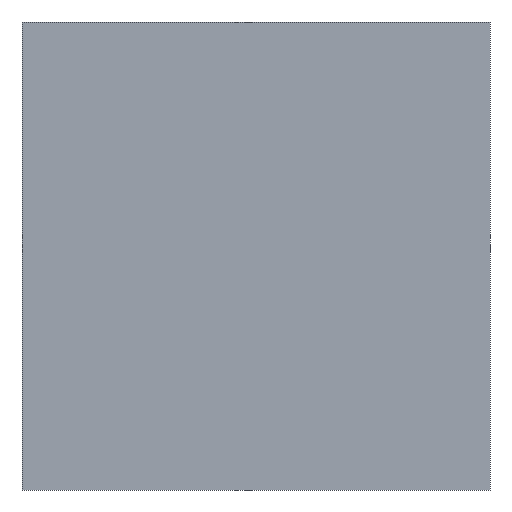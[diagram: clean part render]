
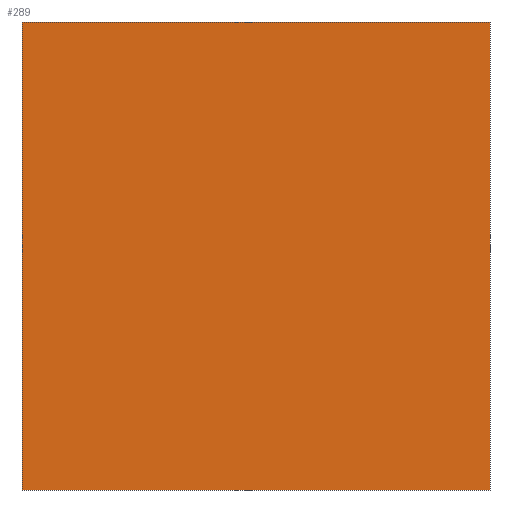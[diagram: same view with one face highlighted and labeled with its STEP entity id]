
A CAD part, front view. The second image highlights one B-rep face of the part: STEP entity #289.
In plain terms, the highlighted planar face has unit normal (0, -1, 0).
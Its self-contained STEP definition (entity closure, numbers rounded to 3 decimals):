
#25 = CARTESIAN_POINT ( 'NONE',  ( 0., -32.5, -20. ) ) ;
#43 = VERTEX_POINT ( 'NONE', #296 ) ;
#133 = LINE ( 'NONE', #710, #361 ) ;
#162 = CARTESIAN_POINT ( 'NONE',  ( 40., -32.5, -20. ) ) ;
#172 = EDGE_LOOP ( 'NONE', ( #198, #449, #435, #474 ) ) ;
#180 = FACE_OUTER_BOUND ( 'NONE', #172, .T. ) ;
#198 = ORIENTED_EDGE ( 'NONE', *, *, #367, .T. ) ;
#266 = DIRECTION ( 'NONE',  ( 0., 0., -1. ) ) ;
#289 = ADVANCED_FACE ( 'NONE', ( #180 ), #631, .F. ) ;
#296 = CARTESIAN_POINT ( 'NONE',  ( 40., -32.5, 20. ) ) ;
#339 = LINE ( 'NONE', #416, #403 ) ;
#346 = EDGE_CURVE ( 'NONE', #778, #893, #765, .T. ) ;
#361 = VECTOR ( 'NONE', #716, 1000. ) ;
#367 = EDGE_CURVE ( 'NONE', #418, #893, #339, .T. ) ;
#373 = EDGE_CURVE ( 'NONE', #43, #778, #923, .T. ) ;
#403 = VECTOR ( 'NONE', #423, 1000. ) ;
#416 = CARTESIAN_POINT ( 'NONE',  ( 0., -32.5, 20. ) ) ;
#418 = VERTEX_POINT ( 'NONE', #665 ) ;
#423 = DIRECTION ( 'NONE',  ( 0., 0., -1. ) ) ;
#433 = AXIS2_PLACEMENT_3D ( 'NONE', #641, #769, #626 ) ;
#435 = ORIENTED_EDGE ( 'NONE', *, *, #373, .F. ) ;
#449 = ORIENTED_EDGE ( 'NONE', *, *, #346, .F. ) ;
#474 = ORIENTED_EDGE ( 'NONE', *, *, #655, .T. ) ;
#552 = CARTESIAN_POINT ( 'NONE',  ( 40., -32.5, -20. ) ) ;
#626 = DIRECTION ( 'NONE',  ( 0., 0., 1. ) ) ;
#631 = PLANE ( 'NONE',  #433 ) ;
#641 = CARTESIAN_POINT ( 'NONE',  ( 40., -32.5, 20. ) ) ;
#655 = EDGE_CURVE ( 'NONE', #43, #418, #133, .T. ) ;
#665 = CARTESIAN_POINT ( 'NONE',  ( 0., -32.5, 20. ) ) ;
#700 = CARTESIAN_POINT ( 'NONE',  ( 40., -32.5, 20. ) ) ;
#710 = CARTESIAN_POINT ( 'NONE',  ( 40., -32.5, 20. ) ) ;
#716 = DIRECTION ( 'NONE',  ( -1., 0., 0. ) ) ;
#740 = VECTOR ( 'NONE', #847, 1000. ) ;
#765 = LINE ( 'NONE', #552, #740 ) ;
#769 = DIRECTION ( 'NONE',  ( 0., 1., 0. ) ) ;
#778 = VERTEX_POINT ( 'NONE', #162 ) ;
#780 = VECTOR ( 'NONE', #266, 1000. ) ;
#847 = DIRECTION ( 'NONE',  ( -1., 0., 0. ) ) ;
#893 = VERTEX_POINT ( 'NONE', #25 ) ;
#923 = LINE ( 'NONE', #700, #780 ) ;
